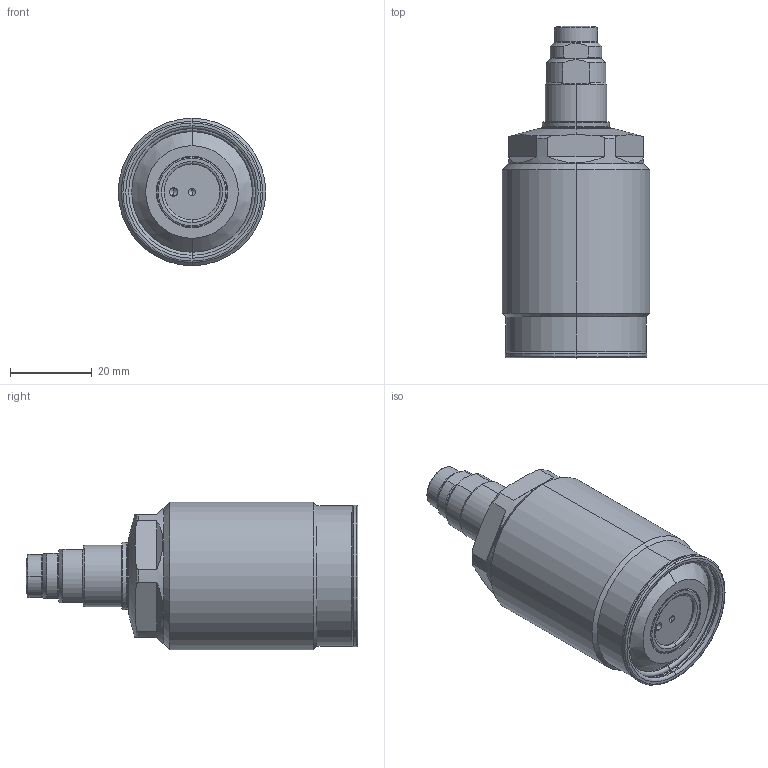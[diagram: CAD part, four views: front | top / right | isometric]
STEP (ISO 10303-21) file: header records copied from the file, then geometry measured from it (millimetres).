
FILE_DESCRIPTION(/* description */ (''),/* implementation_level */ '2;1');
FILE_NAME(/* name */ 'TSS36-M.stp',/* time_stamp */ '2026-02-04T12:42:51+08:00',/* author */ (''),/* organization */ (''),/* preprocessor_version */ 'ST-DEVELOPER v16.7',/* originating_system */ 'SIEMENS PLM Software NX 12.0',/* authorisation */ '');
FILE_SCHEMA (('AUTOMOTIVE_DESIGN { 1 0 10303 214 3 1 1 1 }'));
Length unit declared in the file: millimetre
Products named in the file (10): XLC-M10SP_pin156; XLC-M10SP_contactbolt157; XLC-M10SP_pad158; XLC-M10_Oring159; TSS36-04; TSS36-M03; TSS36-M02; XLC-M10_-M163; TSS36-M01; TSS36-M_stp
Assembly tree (10 placements, depth 3):
  TSS36-M_stp
    TSS36-M01
      XLC-M10_Oring159
    TSS36-M02
    TSS36-M03
    TSS36-04
    XLC-M10_-M163
      XLC-M10SP_pad158
      XLC-M10SP_contactbolt157
      XLC-M10SP_pin156
      XLC-M10_Oring159
Bounding box: 36 x 81 x 36 mm (x, y, z)
Volume: 54358.5 mm3; surface area: 12589.1 mm2
Topology: 8 solids, 8 shells, 427 faces, 900 edges, 498 vertices
Faces by surface type: cone 248, torus 68, cylinder 60, plane 45, sphere 6
Entity records: 11686 total; most frequent: CARTESIAN_POINT 2440, DIRECTION 2134, ORIENTED_EDGE 1736, AXIS2_PLACEMENT_3D 900, EDGE_CURVE 868, VERTEX_POINT 482, CIRCLE 476, EDGE_LOOP 438
